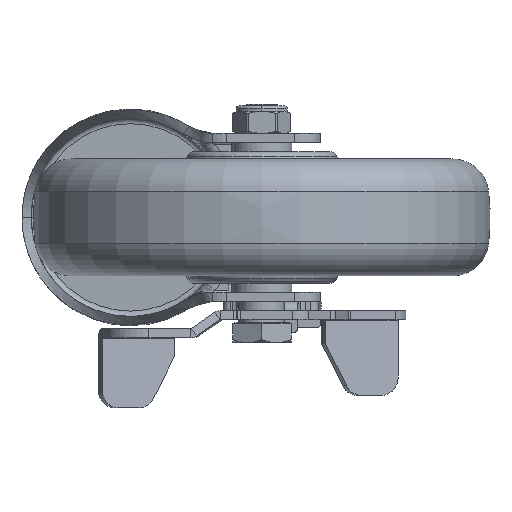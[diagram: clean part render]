
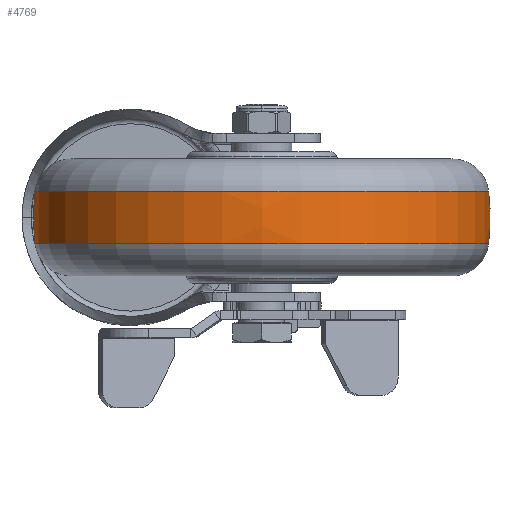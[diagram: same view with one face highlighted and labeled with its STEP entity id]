
A CAD part, front view. The second image highlights one B-rep face of the part: STEP entity #4769.
In plain terms, the highlighted free-form (B-spline) face has degree [3, 3] with [7, 4] control points.
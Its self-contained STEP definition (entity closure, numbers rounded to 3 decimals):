
#4161=CARTESIAN_POINT('',(-7.2,0.,0.));
#4162=DIRECTION('',(-1.,0.,0.));
#4163=DIRECTION('',(0.,1.,0.));
#4164=AXIS2_PLACEMENT_3D('',#4161,#4162,#4163);
#4176=CARTESIAN_POINT('',(0.,2.5,0.));
#4177=DIRECTION('',(0.,0.,1.));
#4178=DIRECTION('',(0.12,0.993,0.));
#4179=AXIS2_PLACEMENT_3D('',#4176,#4177,#4178);
#4181=CARTESIAN_POINT('',(0.,-2.5,0.));
#4182=DIRECTION('',(0.,0.,-1.));
#4183=DIRECTION('',(0.12,-0.993,0.));
#4184=AXIS2_PLACEMENT_3D('',#4181,#4182,#4183);
#4186=CARTESIAN_POINT('',(7.2,0.,0.));
#4187=DIRECTION('',(-1.,0.,0.));
#4188=DIRECTION('',(0.,1.,0.));
#4189=AXIS2_PLACEMENT_3D('',#4186,#4187,#4188);
#4410=CARTESIAN_POINT('',(-7.2,62.066,0.));
#4412=VERTEX_POINT('',#4410);
#4414=CARTESIAN_POINT('',(-7.2,-62.066,
0.));
#4416=VERTEX_POINT('',#4414);
#4443=CARTESIAN_POINT('',(7.2,62.066,0.));
#4445=VERTEX_POINT('',#4443);
#4447=CARTESIAN_POINT('',(7.2,-62.066,
0.));
#4449=VERTEX_POINT('',#4447);
#4733=CARTESIAN_POINT('',(-7.487,-61.909,
3.895));
#4734=CARTESIAN_POINT('',(-2.509,-62.533,
3.934));
#4735=CARTESIAN_POINT('',(2.509,-62.533,3.934));
#4736=CARTESIAN_POINT('',(7.487,-61.909,3.895));
#4737=CARTESIAN_POINT('',(-7.487,-64.306,
-34.204));
#4738=CARTESIAN_POINT('',(-2.509,-64.955,
-34.549));
#4739=CARTESIAN_POINT('',(2.509,-64.955,
-34.549));
#4740=CARTESIAN_POINT('',(7.487,-64.306,
-34.204));
#4741=CARTESIAN_POINT('',(-7.487,-38.174,
-62.031));
#4742=CARTESIAN_POINT('',(-2.509,-38.559,
-62.657));
#4743=CARTESIAN_POINT('',(2.509,-38.559,
-62.657));
#4744=CARTESIAN_POINT('',(7.487,-38.174,
-62.031));
#4745=CARTESIAN_POINT('',(-7.487,0.,
-62.031));
#4746=CARTESIAN_POINT('',(-2.509,0.,
-62.657));
#4747=CARTESIAN_POINT('',(2.509,0.,
-62.657));
#4748=CARTESIAN_POINT('',(7.487,0.,
-62.031));
#4749=CARTESIAN_POINT('',(-7.487,38.174,
-62.031));
#4750=CARTESIAN_POINT('',(-2.509,38.559,
-62.657));
#4751=CARTESIAN_POINT('',(2.509,38.559,-62.657));
#4752=CARTESIAN_POINT('',(7.487,38.174,-62.031));
#4753=CARTESIAN_POINT('',(-7.487,64.306,
-34.204));
#4754=CARTESIAN_POINT('',(-2.509,64.955,
-34.549));
#4755=CARTESIAN_POINT('',(2.509,64.955,-34.549));
#4756=CARTESIAN_POINT('',(7.487,64.306,-34.204));
#4757=CARTESIAN_POINT('',(-7.487,61.909,3.895));
#4758=CARTESIAN_POINT('',(-2.509,62.533,3.934));
#4759=CARTESIAN_POINT('',(2.509,62.533,3.934));
#4760=CARTESIAN_POINT('',(7.487,61.909,3.895));
#4761=(BOUNDED_SURFACE()B_SPLINE_SURFACE(3,3,((#4733,#4734,#4735,#4736),(#4737,
#4738,#4739,#4740),(#4741,#4742,#4743,#4744),(#4745,#4746,#4747,#4748),(#4749,
#4750,#4751,#4752),(#4753,#4754,#4755,#4756),(#4757,#4758,#4759,#4760)),
.UNSPECIFIED.,.F.,.F.,.F.)B_SPLINE_SURFACE_WITH_KNOTS((4,3,4),(4,4),(0.,1.,
2.),(0.,1.),.UNSPECIFIED.)GEOMETRIC_REPRESENTATION_ITEM()RATIONAL_B_SPLINE_SURFACE(((1.192,1.186,1.186,1.192),(
0.941,0.936,0.936,0.941),(
0.941,0.936,0.936,0.941),(
1.192,1.186,1.186,1.192),(
0.941,0.936,0.936,0.941),(
0.941,0.936,0.936,0.941),(
1.192,1.186,1.186,1.192)))REPRESENTATION_ITEM('')SURFACE());
#4762=ORIENTED_EDGE('',*,*,#4723,.T.);
#4763=ORIENTED_EDGE('',*,*,#4676,.T.);
#4764=ORIENTED_EDGE('',*,*,#4727,.F.);
#4766=ORIENTED_EDGE('',*,*,#4765,.F.);
#4767=EDGE_LOOP('',(#4762,#4763,#4764,#4766));
#4768=FACE_OUTER_BOUND('',#4767,.F.);
#4165=CIRCLE('',#4164,62.066);
#4180=CIRCLE('',#4179,60.);
#4185=CIRCLE('',#4184,60.);
#4190=CIRCLE('',#4189,62.066);
#4676=EDGE_CURVE('',#4412,#4416,#4165,.T.);
#4723=EDGE_CURVE('',#4445,#4412,#4180,.T.);
#4727=EDGE_CURVE('',#4449,#4416,#4185,.T.);
#4765=EDGE_CURVE('',#4445,#4449,#4190,.T.);
#4769=ADVANCED_FACE('',(#4768),#4761,.T.);
